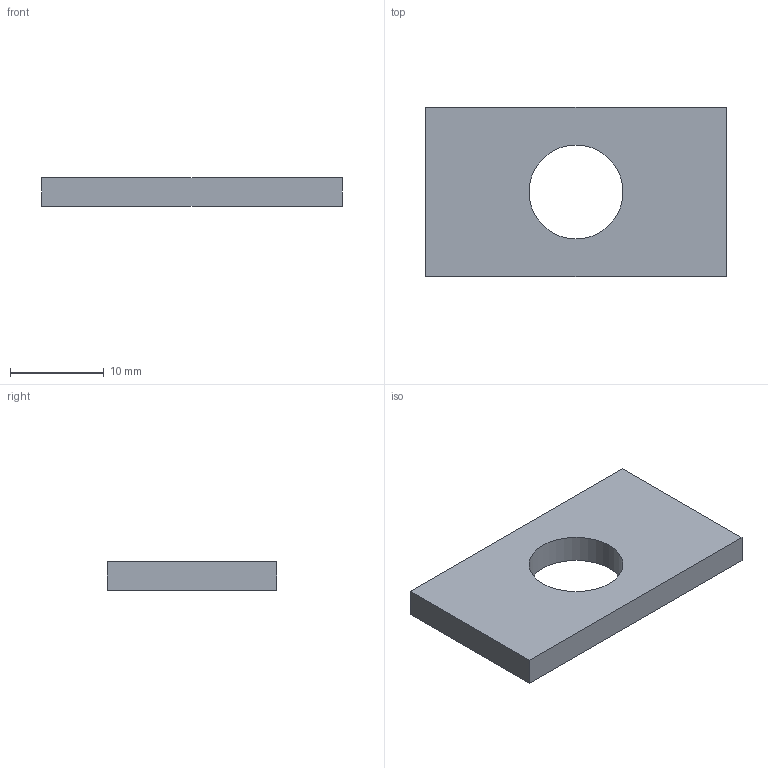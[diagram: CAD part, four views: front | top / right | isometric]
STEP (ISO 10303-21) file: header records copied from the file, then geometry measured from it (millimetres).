
FILE_DESCRIPTION(/* description */ (''),/* implementation_level */ '2;1');
FILE_NAME(/* name */ '77_MZBST',/* time_stamp */ '2014-08-13T14:27:54+02:00',/* author */ (''),/* organization */ (''),/* preprocessor_version */ 'ST-DEVELOPER v9',/* originating_system */ 'UGS - NX 4.0',/* authorisation */ '');
FILE_SCHEMA (('CONFIG_CONTROL_DESIGN'));
Length unit declared in the file: millimetre
Products named in the file (1): MTro45BB8c96
Bounding box: 32 x 18 x 3 mm (x, y, z)
Volume: 1492.4 mm3; surface area: 1389.2 mm2
Topology: 1 solids, 1 shells, 7 faces, 15 edges, 10 vertices
Faces by surface type: plane 6, cylinder 1
Full cylindrical faces by diameter (mm): 10 x1
Entity records: 276 total; most frequent: DIRECTION 32, CARTESIAN_POINT 32, ORIENTED_EDGE 28, EDGE_CURVE 14, LINE 12, VECTOR 12, EDGE_LOOP 10, VERTEX_POINT 10
